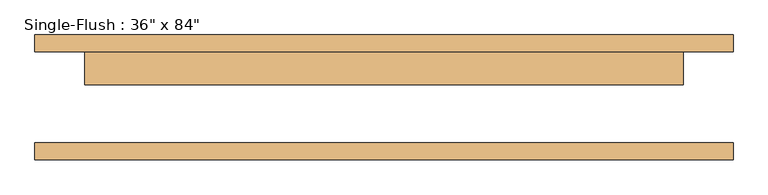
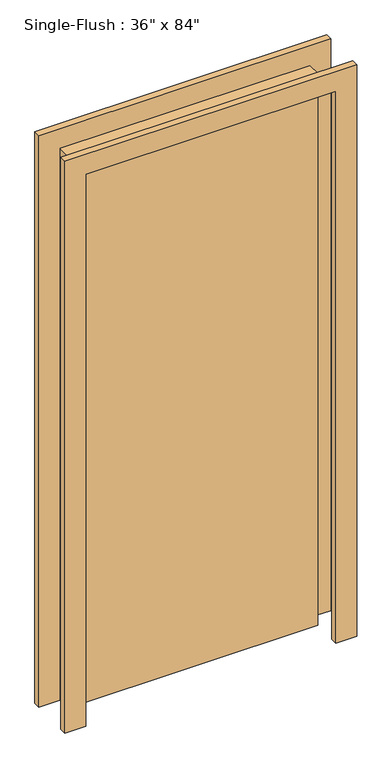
"""IFC4 building model written with IfcOpenShell, lengths in millimetres: door geometry."""

from ifc_helpers import new_model, si_unit, frame, origin, origin_with_axes, place, context, project, spatial, polyline, outline, extrude, source, transform, mapped, element, save


def door_c6edcd30(model_context):
    return source(origin(), model_context, "Body", "SweptSolid", [
        extrude(outline(polyline([(2209.8, -533.4), (0.0, -533.4), (0.0, -457.2), (2133.6, -457.2), (2133.6, 457.2), (0.0, 457.2), (0.0, 533.4), (2209.8, 533.4), (2209.8, -533.4)])), frame((0.0, 69.85, 0.0), z_axis=(0.0, 1.0, 0.0), x_axis=(0.0, 0.0, 1.0)), (0.0, 0.0, 1.0), 25.4),
        extrude(outline(polyline([(2209.8, 533.4), (2209.8, -533.4), (0.0, -533.4), (0.0, -457.2), (2133.6, -457.2), (2133.6, 457.2), (0.0, 457.2), (0.0, 533.4), (2209.8, 533.4)])), frame((0.0, -95.25, 0.0), z_axis=(0.0, 1.0, 0.0), x_axis=(0.0, 0.0, 1.0)), (0.0, 0.0, 1.0), 25.4),
        extrude(outline(polyline([(457.2, 19.05), (-457.2, 19.05), (-457.2, 69.85), (457.2, 69.85), (457.2, 19.05)])), origin_with_axes(), (0.0, 0.0, 1.0), 2133.6),
    ])


if __name__ == "__main__":
    model = new_model("IFC4")
    model_context = context("Model", 3, world=origin())
    ifc_project = project(units=[si_unit("LENGTHUNIT", "METRE", prefix="MILLI")], contexts=[model_context])
    site = spatial("IfcSite", under=ifc_project)
    building = spatial("IfcBuilding", under=site)
    placement = place(None, origin())
    door_shape = door_c6edcd30(model_context)
    element("IfcDoor", 1, ObjectType="Single-Flush : 36\" x 84\"", at=placement, inside=building, context=model_context, shape_type="MappedRepresentation", body=[
        mapped(door_shape, transform((0.0, 0.0, 0.0), x_axis=(1.0, 0.0, 0.0), y_axis=(0.0, 1.0, 0.0), z_axis=(0.0, 0.0, 1.0))),
    ])
    save(model, "model.ifc")
